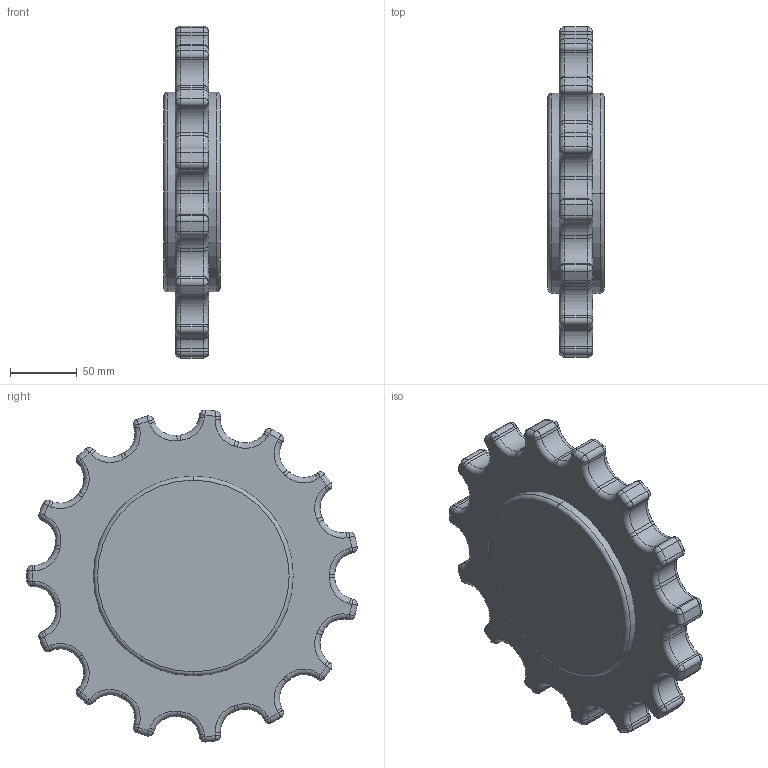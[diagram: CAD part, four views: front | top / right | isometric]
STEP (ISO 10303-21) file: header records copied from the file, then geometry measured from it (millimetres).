
FILE_DESCRIPTION((''),'2;1');
FILE_NAME('UNI_3200_Z15_2W_1R_1P_HUB120','2015-11-23T',('bhe'),(''),'CREO PARAMETRIC BY PTC INC, 2015290','CREO PARAMETRIC BY PTC INC, 2015290','');
FILE_SCHEMA(('CONFIG_CONTROL_DESIGN'));
Length unit declared in the file: millimetre
Products named in the file (1): UNI_3200_Z15_2W_1R_1P_HUB120
Bounding box: 42.3 x 248.1 x 249.35 mm (x, y, z)
Volume: 1322733.1 mm3; surface area: 111257 mm2
Topology: 1 solids, 1 shells, 372 faces, 800 edges, 432 vertices
Faces by surface type: cylinder 154, torus 124, sphere 60, plane 34
Entity records: 10046 total; most frequent: DIRECTION 2100, CARTESIAN_POINT 1604, ORIENTED_EDGE 1600, AXIS2_PLACEMENT_3D 928, EDGE_CURVE 800, CIRCLE 556, VERTEX_POINT 432, EDGE_LOOP 374
